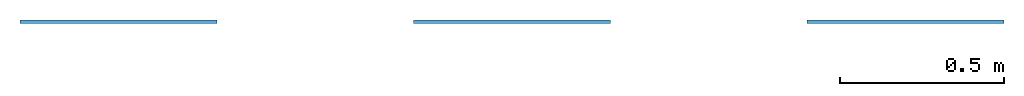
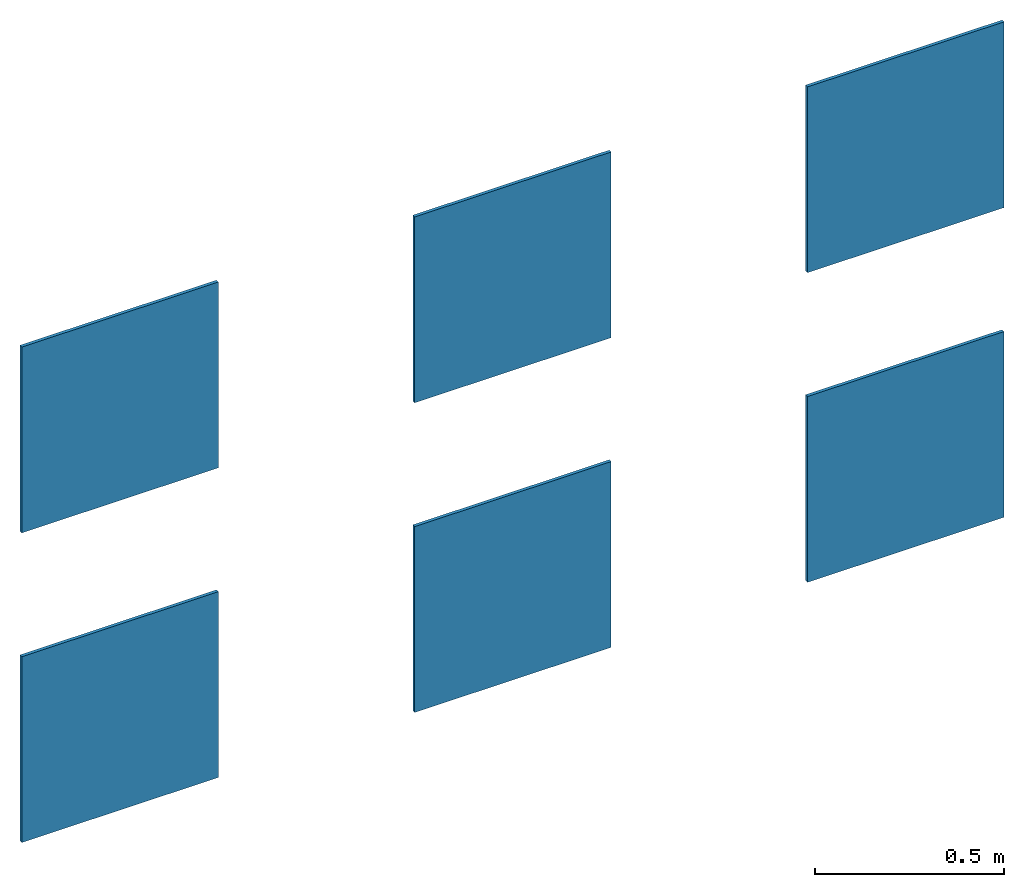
# One storey: 6 walls.
"""IFC2X3 building model written with IfcOpenShell, lengths in metres."""

from ifc_helpers import new_model, entity, si_unit, converted_unit, derived_unit, direction, frame, frame_2d, origin, place, context, subcontext, project, spatial, rectangle, extrude, material, layer, layer_set, layer_usage, type_object, element, save


model = new_model("IFC2X3")

# Units and contexts
model_context = context("Model", 3, precision=1e-05, world=origin(), true_north=direction((6.12303176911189e-17, 1.0)))
body_context = subcontext(model_context, "Body", "Model", "MODEL_VIEW")
ifc_project = project(units=[si_unit("LENGTHUNIT", "METRE"), si_unit("AREAUNIT", "SQUARE_METRE"), si_unit("VOLUMEUNIT", "CUBIC_METRE"), converted_unit("PLANEANGLEUNIT", "DEGREE", entity("IfcRatioMeasure", 0.0174532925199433), si_unit("PLANEANGLEUNIT", "RADIAN"), dimensions=[0, 0, 0, 0, 0, 0, 0]), si_unit("MASSUNIT", "GRAM", prefix="KILO"), si_unit("TIMEUNIT", "SECOND"), si_unit("FREQUENCYUNIT", "HERTZ"), si_unit("THERMODYNAMICTEMPERATUREUNIT", "DEGREE_CELSIUS"), derived_unit("THERMALTRANSMITTANCEUNIT", [(si_unit("MASSUNIT", "GRAM", prefix="KILO"), 1), (si_unit("THERMODYNAMICTEMPERATUREUNIT", "KELVIN"), -1), (si_unit("TIMEUNIT", "SECOND"), -3)]), derived_unit("VOLUMETRICFLOWRATEUNIT", [(si_unit("LENGTHUNIT", "METRE"), 3), (si_unit("TIMEUNIT", "SECOND"), -1)]), si_unit("ELECTRICCURRENTUNIT", "AMPERE"), si_unit("ELECTRICVOLTAGEUNIT", "VOLT"), si_unit("POWERUNIT", "WATT"), si_unit("FORCEUNIT", "NEWTON", prefix="KILO"), si_unit("ILLUMINANCEUNIT", "LUX"), si_unit("LUMINOUSFLUXUNIT", "LUMEN"), si_unit("LUMINOUSINTENSITYUNIT", "CANDELA"), derived_unit("USERDEFINED", [(si_unit("MASSUNIT", "GRAM", prefix="KILO"), -1), (si_unit("LENGTHUNIT", "METRE"), -2), (si_unit("TIMEUNIT", "SECOND"), 3), (si_unit("LUMINOUSFLUXUNIT", "LUMEN"), 1)]), derived_unit("LINEARVELOCITYUNIT", [(si_unit("LENGTHUNIT", "METRE"), 1), (si_unit("TIMEUNIT", "SECOND"), -1)]), si_unit("PRESSUREUNIT", "PASCAL"), derived_unit("USERDEFINED", [(si_unit("LENGTHUNIT", "METRE"), -2), (si_unit("MASSUNIT", "GRAM", prefix="KILO"), 1), (si_unit("TIMEUNIT", "SECOND"), -2)])], contexts=[model_context])

# Site, building, storey
site_placement = place(None, origin())
site = spatial("IfcSite", under=ifc_project, at=site_placement, Name="Default", CompositionType="ELEMENT")
building_placement = place(site_placement, origin())
building = spatial("IfcBuilding", under=site, at=building_placement, CompositionType="ELEMENT")
storey_placement = place(building_placement, frame((0.0, 0.0, 3.0)))
storey = spatial("IfcBuildingStorey", under=building, at=storey_placement, Name="Nivel 2", CompositionType="ELEMENT", Elevation=3.0)

# Walls
ifc_material_1 = material(Name="VIVES LAVERTON ARENA 60x60")
ifc_layer_1 = layer(ifc_material_1, 0.01)
ifc_layer_set_1 = layer_set([ifc_layer_1], Name="Muro básico:VIVES LAVERTON ARENA 60x60")
ifc_layer_usage_1 = layer_usage(ifc_layer_set_1, "AXIS2", "NEGATIVE", 0.005)
wall_type_1 = type_object("IfcWallType", Name="Muro básico:VIVES LAVERTON ARENA 60x60", PredefinedType="STANDARD", material=ifc_layer_set_1)
wall_1_placement = place(storey_placement, frame((15.9884057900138, 0.617172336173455, 1.33322651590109)))
element("IfcWallStandardCase", 1, at=wall_1_placement, inside=storey, type_object=wall_type_1, material=ifc_layer_usage_1, Name="Muro básico:VIVES LAVERTON ARENA 60x60", ObjectType="Muro básico:VIVES LAVERTON ARENA 60x60", context=body_context, shape_type="SweptSolid", body=[
    extrude(rectangle(XDim=0.6, YDim=0.00999999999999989, at=frame_2d((0.3, -9.10729824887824e-18), x_axis=(-1.0, 0.0))), origin(), (0.0, 0.0, 1.0), 0.6),
])
ifc_material_2 = material(Name="VIVES LAVERTON NIEVE 60x60")
ifc_layer_2 = layer(ifc_material_2, 0.01)
ifc_layer_set_2 = layer_set([ifc_layer_2], Name="Muro básico:VIVES LAVERTON NIEVE 60x60")
ifc_layer_usage_2 = layer_usage(ifc_layer_set_2, "AXIS2", "NEGATIVE", 0.005)
wall_type_2 = type_object("IfcWallType", Name="Muro básico:VIVES LAVERTON NIEVE 60x60", PredefinedType="STANDARD", material=ifc_layer_set_2)
wall_2_placement = place(storey_placement, frame((17.1884057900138, 0.617172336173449, 1.33322651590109)))
element("IfcWallStandardCase", 2, at=wall_2_placement, inside=storey, type_object=wall_type_2, material=ifc_layer_usage_2, Name="Muro básico:VIVES LAVERTON NIEVE 60x60", ObjectType="Muro básico:VIVES LAVERTON NIEVE 60x60", context=body_context, shape_type="SweptSolid", body=[
    extrude(rectangle(XDim=0.6, YDim=0.00999999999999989, at=frame_2d((0.3, -9.10729824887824e-18), x_axis=(-1.0, 0.0))), origin(), (0.0, 0.0, 1.0), 0.6),
])
ifc_material_3 = material(Name="VIVES LAVERTON NATURAL 60x60")
ifc_layer_3 = layer(ifc_material_3, 0.01)
ifc_layer_set_3 = layer_set([ifc_layer_3], Name="Muro básico:VIVES LAVERTON NATURAL 60x60")
ifc_layer_usage_3 = layer_usage(ifc_layer_set_3, "AXIS2", "NEGATIVE", 0.005)
wall_type_3 = type_object("IfcWallType", Name="Muro básico:VIVES LAVERTON NATURAL 60x60", PredefinedType="STANDARD", material=ifc_layer_set_3)
wall_3_placement = place(storey_placement, frame((18.3884057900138, 0.617172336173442, 1.33322651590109)))
element("IfcWallStandardCase", 3, at=wall_3_placement, inside=storey, type_object=wall_type_3, material=ifc_layer_usage_3, Name="Muro básico:VIVES LAVERTON NATURAL 60x60", ObjectType="Muro básico:VIVES LAVERTON NATURAL 60x60", context=body_context, shape_type="SweptSolid", body=[
    extrude(rectangle(XDim=0.6, YDim=0.00999999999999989, at=frame_2d((0.3, -9.10729824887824e-18), x_axis=(-1.0, 0.0))), origin(), (0.0, 0.0, 1.0), 0.6),
])
ifc_material_4 = material(Name="VIVES LAVERTON BEIGE 60x60")
ifc_layer_4 = layer(ifc_material_4, 0.01)
ifc_layer_set_4 = layer_set([ifc_layer_4], Name="Muro básico:VIVES LAVERTON BEIGE 60x60")
ifc_layer_usage_4 = layer_usage(ifc_layer_set_4, "AXIS2", "NEGATIVE", 0.005)
wall_type_4 = type_object("IfcWallType", Name="Muro básico:VIVES LAVERTON BEIGE 60x60", PredefinedType="STANDARD", material=ifc_layer_set_4)
wall_4_placement = place(storey_placement, frame((15.9884057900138, 0.617172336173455, 0.333226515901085)))
element("IfcWallStandardCase", 4, at=wall_4_placement, inside=storey, type_object=wall_type_4, material=ifc_layer_usage_4, Name="Muro básico:VIVES LAVERTON BEIGE 60x60", ObjectType="Muro básico:VIVES LAVERTON BEIGE 60x60", context=body_context, shape_type="SweptSolid", body=[
    extrude(rectangle(XDim=0.6, YDim=0.00999999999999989, at=frame_2d((0.3, -9.10729824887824e-18), x_axis=(-1.0, 0.0))), origin(), (0.0, 0.0, 1.0), 0.6),
])
ifc_material_5 = material(Name="VIVES LAVERTON GRIS 60x60")
ifc_layer_5 = layer(ifc_material_5, 0.01)
ifc_layer_set_5 = layer_set([ifc_layer_5], Name="Muro básico:VIVES LAVERTON GRIS 60x60")
ifc_layer_usage_5 = layer_usage(ifc_layer_set_5, "AXIS2", "NEGATIVE", 0.005)
wall_type_5 = type_object("IfcWallType", Name="Muro básico:VIVES LAVERTON GRIS 60x60", PredefinedType="STANDARD", material=ifc_layer_set_5)
wall_5_placement = place(storey_placement, frame((17.1884057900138, 0.617172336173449, 0.333226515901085)))
element("IfcWallStandardCase", 5, at=wall_5_placement, inside=storey, type_object=wall_type_5, material=ifc_layer_usage_5, Name="Muro básico:VIVES LAVERTON GRIS 60x60", ObjectType="Muro básico:VIVES LAVERTON GRIS 60x60", context=body_context, shape_type="SweptSolid", body=[
    extrude(rectangle(XDim=0.6, YDim=0.00999999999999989, at=frame_2d((0.3, -9.10729824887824e-18), x_axis=(-1.0, 0.0))), origin(), (0.0, 0.0, 1.0), 0.6),
])
ifc_material_6 = material(Name="VIVES LAVERTON GRAFITO 60x60")
ifc_layer_6 = layer(ifc_material_6, 0.01)
ifc_layer_set_6 = layer_set([ifc_layer_6], Name="Muro básico:VIVES LAVERTON GRAFITO 60x60")
ifc_layer_usage_6 = layer_usage(ifc_layer_set_6, "AXIS2", "NEGATIVE", 0.005)
wall_type_6 = type_object("IfcWallType", Name="Muro básico:VIVES LAVERTON GRAFITO 60x60", PredefinedType="STANDARD", material=ifc_layer_set_6)
wall_6_placement = place(storey_placement, frame((18.3884057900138, 0.617172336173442, 0.333226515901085)))
element("IfcWallStandardCase", 6, at=wall_6_placement, inside=storey, type_object=wall_type_6, material=ifc_layer_usage_6, Name="Muro básico:VIVES LAVERTON GRAFITO 60x60", ObjectType="Muro básico:VIVES LAVERTON GRAFITO 60x60", context=body_context, shape_type="SweptSolid", body=[
    extrude(rectangle(XDim=0.6, YDim=0.00999999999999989, at=frame_2d((0.3, -9.10729824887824e-18), x_axis=(-1.0, 0.0))), origin(), (0.0, 0.0, 1.0), 0.6),
])

save(model, "model.ifc")
